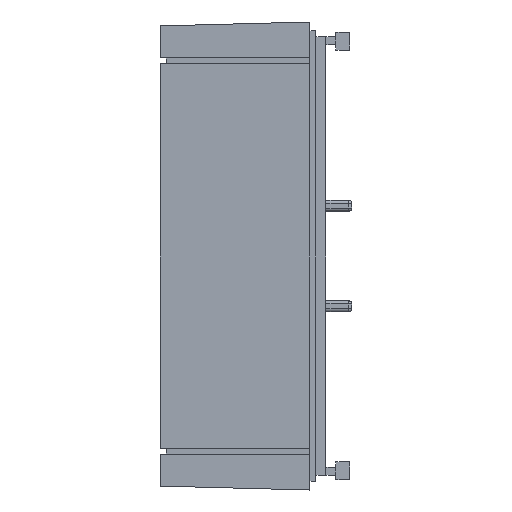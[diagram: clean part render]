
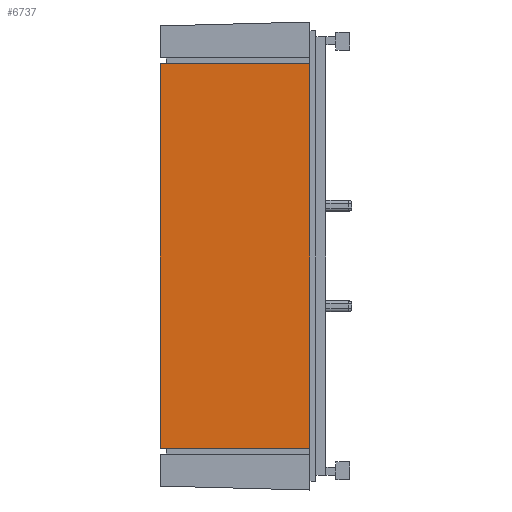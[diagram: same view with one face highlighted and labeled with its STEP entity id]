
A CAD part, left-side view. The second image highlights one B-rep face of the part: STEP entity #6737.
In plain terms, the highlighted planar face has unit normal (-1, 0.026, 0).
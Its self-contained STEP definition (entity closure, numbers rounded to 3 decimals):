
#87 = EDGE_CURVE ( 'NONE', #4311, #8291, #7307, .T. ) ;
#899 = CARTESIAN_POINT ( 'NONE',  ( -63.508, 1.6, -19.25 ) ) ;
#902 = CARTESIAN_POINT ( 'NONE',  ( -63.115, 16.6, 19.25 ) ) ;
#1109 = LINE ( 'NONE', #7768, #4402 ) ;
#1143 = VERTEX_POINT ( 'NONE', #3183 ) ;
#1203 = LINE ( 'NONE', #7964, #5123 ) ;
#1232 = DIRECTION ( 'NONE',  ( -0.026, -1., 0. ) ) ;
#1409 = AXIS2_PLACEMENT_3D ( 'NONE', #4502, #5178, #1232 ) ;
#2115 = VECTOR ( 'NONE', #5733, 1000. ) ;
#2284 = FACE_OUTER_BOUND ( 'NONE', #4543, .T. ) ;
#2513 = ORIENTED_EDGE ( 'NONE', *, *, #4302, .F. ) ;
#3085 = CARTESIAN_POINT ( 'NONE',  ( -63.115, 16.6, -19.25 ) ) ;
#3183 = CARTESIAN_POINT ( 'NONE',  ( -63.508, 1.6, 19.25 ) ) ;
#3454 = ORIENTED_EDGE ( 'NONE', *, *, #87, .F. ) ;
#3967 = DIRECTION ( 'NONE',  ( 0.026, 1., 0. ) ) ;
#4059 = LINE ( 'NONE', #7056, #2115 ) ;
#4243 = CARTESIAN_POINT ( 'NONE',  ( -63.115, 16.6, 23.5 ) ) ;
#4302 = EDGE_CURVE ( 'NONE', #8291, #1143, #4059, .T. ) ;
#4311 = VERTEX_POINT ( 'NONE', #3085 ) ;
#4402 = VECTOR ( 'NONE', #8469, 1000. ) ;
#4482 = DIRECTION ( 'NONE',  ( 0., 0., 1. ) ) ;
#4499 = ORIENTED_EDGE ( 'NONE', *, *, #7825, .F. ) ;
#4502 = CARTESIAN_POINT ( 'NONE',  ( -63.55, 0., 23.5 ) ) ;
#4543 = EDGE_LOOP ( 'NONE', ( #4499, #2513, #3454, #4980 ) ) ;
#4980 = ORIENTED_EDGE ( 'NONE', *, *, #8004, .F. ) ;
#5123 = VECTOR ( 'NONE', #3967, 1000. ) ;
#5178 = DIRECTION ( 'NONE',  ( -1., 0.026, 0. ) ) ;
#5446 = VERTEX_POINT ( 'NONE', #899 ) ;
#5653 = VECTOR ( 'NONE', #4482, 1000. ) ;
#5733 = DIRECTION ( 'NONE',  ( -0.026, -1., 0. ) ) ;
#6737 = ADVANCED_FACE ( 'NONE', ( #2284 ), #8536, .T. ) ;
#7056 = CARTESIAN_POINT ( 'NONE',  ( -63.115, 16.6, 19.25 ) ) ;
#7307 = LINE ( 'NONE', #4243, #5653 ) ;
#7768 = CARTESIAN_POINT ( 'NONE',  ( -63.508, 1.6, 23.5 ) ) ;
#7825 = EDGE_CURVE ( 'NONE', #1143, #5446, #1109, .T. ) ;
#7964 = CARTESIAN_POINT ( 'NONE',  ( -63.115, 16.6, -19.25 ) ) ;
#8004 = EDGE_CURVE ( 'NONE', #5446, #4311, #1203, .T. ) ;
#8291 = VERTEX_POINT ( 'NONE', #902 ) ;
#8469 = DIRECTION ( 'NONE',  ( 0., 0., -1. ) ) ;
#8536 = PLANE ( 'NONE',  #1409 ) ;
